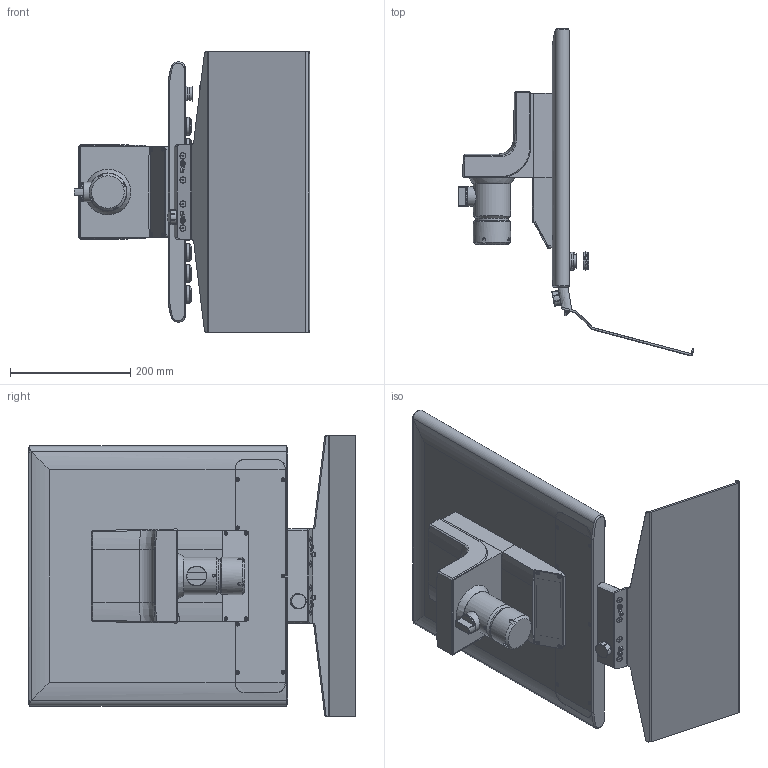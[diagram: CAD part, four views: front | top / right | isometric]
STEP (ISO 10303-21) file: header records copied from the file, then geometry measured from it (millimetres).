
FILE_DESCRIPTION(/* description */ (''),/* implementation_level */ '2;1');
FILE_NAME(/* name */ 'CP3919-0000_Landscape_G026_M753_M406.stp',/* time_stamp */ '2024-12-06T13:53:19+01:00',/* author */ ('simonejochim'),/* organization */ (''),/* preprocessor_version */ 'ST-DEVELOPER v20',/* originating_system */ 'Autodesk Inventor 2024',/* authorisation */ '');
FILE_SCHEMA (('AUTOMOTIVE_DESIGN { 1 0 10303 214 3 1 1 }'));
Length unit declared in the file: millimetre
Products named in the file (1): CP3919-G026-M753-M406-Step
Bounding box: 392.51 x 544.22 x 468 mm (x, y, z)
Volume: 7908445.2 mm3; surface area: 884056.9 mm2
Topology: 1 solids, 1 shells, 1279 faces, 3441 edges, 2242 vertices
Faces by surface type: plane 764, cylinder 241, cone 126, bspline 94, torus 44, sphere 10
Full cylindrical faces by diameter (mm): 4.917 x1, 6 x11, 7.6 x2, 8.5 x2, 10 x4, 21.5 x1, 22 x1, 22.2 x1, 22.55 x1, 24 x1, 25 x2, 25.8 x1, 26 x1, 26.8 x1, 28 x1, 28.6 x9, 33 x1, 45 x1, 45.2 x1, 55 x1, 62 x2
Entity records: 45514 total; most frequent: CARTESIAN_POINT 12005, ORIENTED_EDGE 6878, DIRECTION 6357, EDGE_CURVE 3439, LINE 2301, VECTOR 2301, VERTEX_POINT 2242, AXIS2_PLACEMENT_3D 2028
